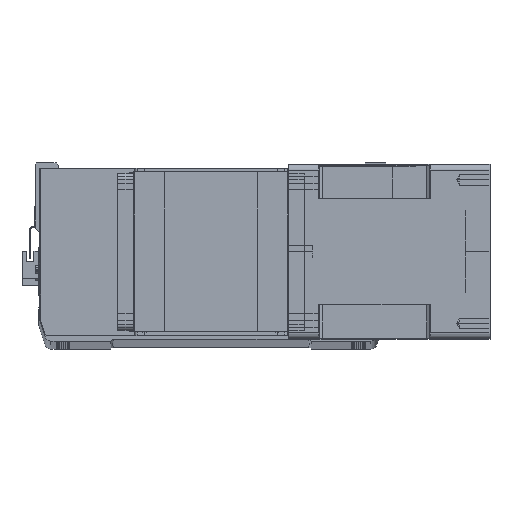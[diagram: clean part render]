
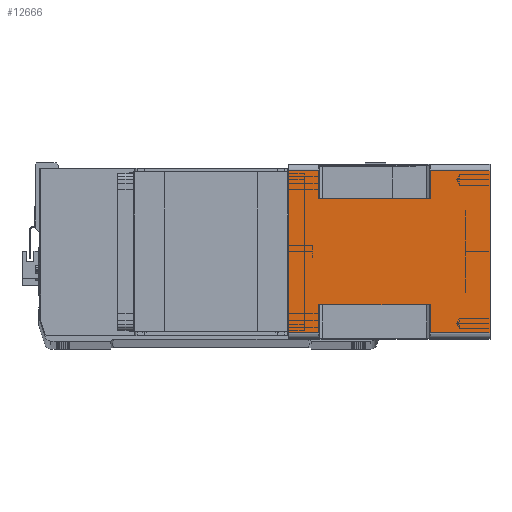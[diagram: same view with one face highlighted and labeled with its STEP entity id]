
A CAD part, top view. The second image highlights one B-rep face of the part: STEP entity #12666.
In plain terms, the highlighted planar face has unit normal (0, 0, 1) as drawn and (1, 0, 0) by its records, which use the part's own axes.
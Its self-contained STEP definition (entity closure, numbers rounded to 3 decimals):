
#442 = VECTOR ( 'NONE', #12673, 1000. ) ;
#1006 = ORIENTED_EDGE ( 'NONE', *, *, #28578, .T. ) ;
#1087 = ORIENTED_EDGE ( 'NONE', *, *, #16944, .F. ) ;
#1534 = DIRECTION ( 'NONE',  ( 0., 0., -1. ) ) ;
#1591 = CARTESIAN_POINT ( 'NONE',  ( 71., -66., 0. ) ) ;
#2058 = VECTOR ( 'NONE', #30938, 1000. ) ;
#2080 = CARTESIAN_POINT ( 'NONE',  ( 71., -43., -24.5 ) ) ;
#2175 = VECTOR ( 'NONE', #6814, 1000. ) ;
#2509 = DIRECTION ( 'NONE',  ( 0., 0., 1. ) ) ;
#2618 = LINE ( 'NONE', #27839, #24145 ) ;
#2796 = EDGE_CURVE ( 'NONE', #31750, #9636, #27124, .T. ) ;
#3208 = DIRECTION ( 'NONE',  ( 0., 0., 1. ) ) ;
#5123 = LINE ( 'NONE', #22727, #2058 ) ;
#5563 = CARTESIAN_POINT ( 'NONE',  ( 71., -66., -24.5 ) ) ;
#5903 = EDGE_CURVE ( 'NONE', #26697, #8555, #28280, .T. ) ;
#6029 = CARTESIAN_POINT ( 'NONE',  ( 71., -66., 0. ) ) ;
#6178 = LINE ( 'NONE', #35161, #442 ) ;
#6805 = LINE ( 'NONE', #20227, #15955 ) ;
#6814 = DIRECTION ( 'NONE',  ( 0., 1., 0. ) ) ;
#7231 = VERTEX_POINT ( 'NONE', #19173 ) ;
#7297 = LINE ( 'NONE', #26331, #13812 ) ;
#7577 = DIRECTION ( 'NONE',  ( 0., 0., 1. ) ) ;
#8007 = ORIENTED_EDGE ( 'NONE', *, *, #34087, .T. ) ;
#8041 = CARTESIAN_POINT ( 'NONE',  ( 71., -66., -164. ) ) ;
#8353 = LINE ( 'NONE', #1591, #29490 ) ;
#8555 = VERTEX_POINT ( 'NONE', #2080 ) ;
#8630 = CARTESIAN_POINT ( 'NONE',  ( 71., -66., -164. ) ) ;
#9311 = CARTESIAN_POINT ( 'NONE',  ( 71., 66., -164. ) ) ;
#9636 = VERTEX_POINT ( 'NONE', #6029 ) ;
#9991 = CARTESIAN_POINT ( 'NONE',  ( 71., -66., -24.5 ) ) ;
#10484 = DIRECTION ( 'NONE',  ( 0., 1., 0. ) ) ;
#11029 = ORIENTED_EDGE ( 'NONE', *, *, #30611, .T. ) ;
#11081 = VERTEX_POINT ( 'NONE', #28257 ) ;
#11262 = EDGE_CURVE ( 'NONE', #26697, #12798, #7297, .T. ) ;
#11578 = CARTESIAN_POINT ( 'NONE',  ( 71., 66., 0. ) ) ;
#12666 = ADVANCED_FACE ( 'NONE', ( #19998 ), #30436, .T. ) ;
#12673 = DIRECTION ( 'NONE',  ( 0., 0., 1. ) ) ;
#12798 = VERTEX_POINT ( 'NONE', #14121 ) ;
#13045 = EDGE_CURVE ( 'NONE', #15115, #7231, #6805, .T. ) ;
#13240 = LINE ( 'NONE', #24919, #28680 ) ;
#13812 = VECTOR ( 'NONE', #21136, 1000. ) ;
#14121 = CARTESIAN_POINT ( 'NONE',  ( 71., -66., -115.5 ) ) ;
#15115 = VERTEX_POINT ( 'NONE', #33409 ) ;
#15955 = VECTOR ( 'NONE', #23192, 1000. ) ;
#16944 = EDGE_CURVE ( 'NONE', #9636, #25538, #8353, .T. ) ;
#17325 = ORIENTED_EDGE ( 'NONE', *, *, #30853, .F. ) ;
#17502 = LINE ( 'NONE', #20392, #2175 ) ;
#17518 = CARTESIAN_POINT ( 'NONE',  ( 71., -43., -115.5 ) ) ;
#17691 = CARTESIAN_POINT ( 'NONE',  ( 71., 66., -24.5 ) ) ;
#18580 = ORIENTED_EDGE ( 'NONE', *, *, #5903, .F. ) ;
#19173 = CARTESIAN_POINT ( 'NONE',  ( 71., 43., -115.5 ) ) ;
#19876 = EDGE_LOOP ( 'NONE', ( #18580, #20565, #20507, #23214, #8007, #33093, #17325, #1006, #11029, #1087, #23025, #31955 ) ) ;
#19998 = FACE_OUTER_BOUND ( 'NONE', #19876, .T. ) ;
#20227 = CARTESIAN_POINT ( 'NONE',  ( 71., 43., -115.5 ) ) ;
#20392 = CARTESIAN_POINT ( 'NONE',  ( 71., -43., -24.5 ) ) ;
#20440 = LINE ( 'NONE', #9991, #35561 ) ;
#20507 = ORIENTED_EDGE ( 'NONE', *, *, #26361, .F. ) ;
#20565 = ORIENTED_EDGE ( 'NONE', *, *, #11262, .T. ) ;
#20607 = AXIS2_PLACEMENT_3D ( 'NONE', #8041, #30185, #33182 ) ;
#20730 = CARTESIAN_POINT ( 'NONE',  ( 71., 66., -164. ) ) ;
#21136 = DIRECTION ( 'NONE',  ( 0., -1., 0. ) ) ;
#21270 = CARTESIAN_POINT ( 'NONE',  ( 71., -43., -164. ) ) ;
#22727 = CARTESIAN_POINT ( 'NONE',  ( 71., -66., -164. ) ) ;
#22852 = VERTEX_POINT ( 'NONE', #17691 ) ;
#23025 = ORIENTED_EDGE ( 'NONE', *, *, #2796, .F. ) ;
#23192 = DIRECTION ( 'NONE',  ( 0., -1., 0. ) ) ;
#23214 = ORIENTED_EDGE ( 'NONE', *, *, #28930, .T. ) ;
#23287 = VERTEX_POINT ( 'NONE', #32411 ) ;
#24145 = VECTOR ( 'NONE', #2509, 1000. ) ;
#24919 = CARTESIAN_POINT ( 'NONE',  ( 71., 43., -164. ) ) ;
#25538 = VERTEX_POINT ( 'NONE', #11578 ) ;
#26331 = CARTESIAN_POINT ( 'NONE',  ( 71., -66., -115.5 ) ) ;
#26361 = EDGE_CURVE ( 'NONE', #11081, #12798, #6178, .T. ) ;
#26697 = VERTEX_POINT ( 'NONE', #17518 ) ;
#26784 = DIRECTION ( 'NONE',  ( 0., 1., 0. ) ) ;
#26965 = VECTOR ( 'NONE', #7577, 1000. ) ;
#27124 = LINE ( 'NONE', #8630, #32010 ) ;
#27839 = CARTESIAN_POINT ( 'NONE',  ( 71., 66., -164. ) ) ;
#28257 = CARTESIAN_POINT ( 'NONE',  ( 71., -66., -164. ) ) ;
#28280 = LINE ( 'NONE', #21270, #26965 ) ;
#28578 = EDGE_CURVE ( 'NONE', #23287, #22852, #20440, .T. ) ;
#28680 = VECTOR ( 'NONE', #1534, 1000. ) ;
#28717 = LINE ( 'NONE', #9311, #30030 ) ;
#28930 = EDGE_CURVE ( 'NONE', #11081, #33564, #5123, .T. ) ;
#29490 = VECTOR ( 'NONE', #26784, 1000. ) ;
#29873 = DIRECTION ( 'NONE',  ( 0., 0., 1. ) ) ;
#30030 = VECTOR ( 'NONE', #29873, 1000. ) ;
#30185 = DIRECTION ( 'NONE',  ( 1., 0., 0. ) ) ;
#30436 = PLANE ( 'NONE',  #20607 ) ;
#30611 = EDGE_CURVE ( 'NONE', #22852, #25538, #28717, .T. ) ;
#30853 = EDGE_CURVE ( 'NONE', #23287, #7231, #13240, .T. ) ;
#30938 = DIRECTION ( 'NONE',  ( 0., 1., 0. ) ) ;
#31750 = VERTEX_POINT ( 'NONE', #5563 ) ;
#31955 = ORIENTED_EDGE ( 'NONE', *, *, #34394, .T. ) ;
#32010 = VECTOR ( 'NONE', #3208, 1000. ) ;
#32411 = CARTESIAN_POINT ( 'NONE',  ( 71., 43., -24.5 ) ) ;
#33093 = ORIENTED_EDGE ( 'NONE', *, *, #13045, .T. ) ;
#33182 = DIRECTION ( 'NONE',  ( 0., 1., 0. ) ) ;
#33409 = CARTESIAN_POINT ( 'NONE',  ( 71., 66., -115.5 ) ) ;
#33564 = VERTEX_POINT ( 'NONE', #20730 ) ;
#34087 = EDGE_CURVE ( 'NONE', #33564, #15115, #2618, .T. ) ;
#34394 = EDGE_CURVE ( 'NONE', #31750, #8555, #17502, .T. ) ;
#35161 = CARTESIAN_POINT ( 'NONE',  ( 71., -66., -164. ) ) ;
#35561 = VECTOR ( 'NONE', #10484, 1000. ) ;
